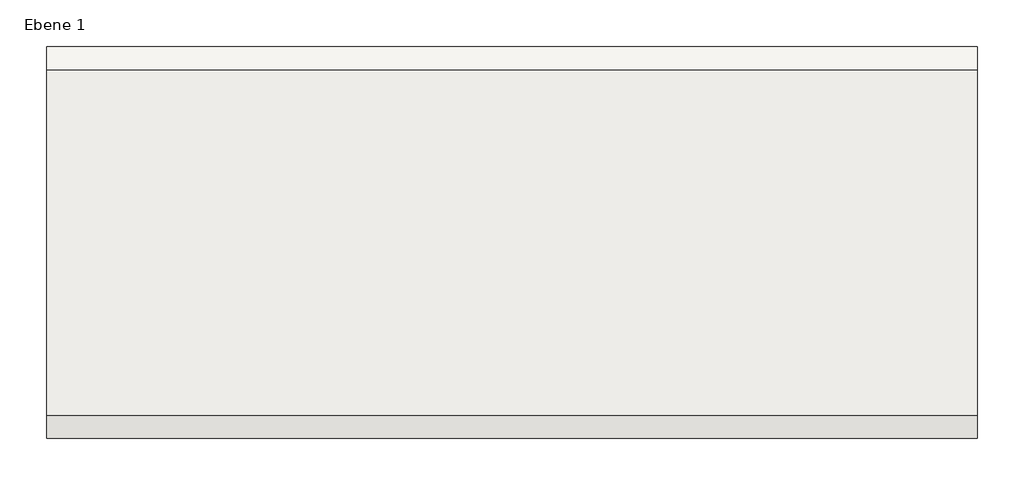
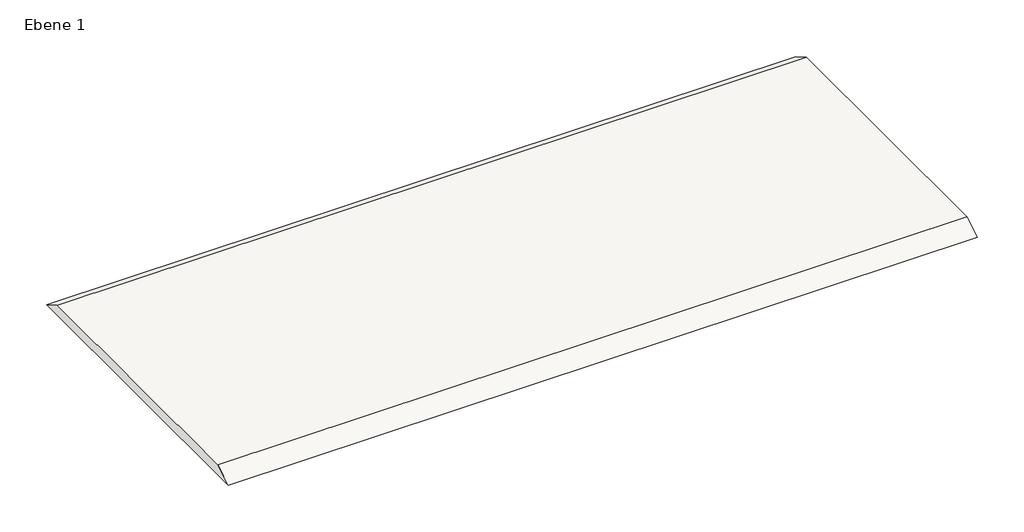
# One storey: 1 slab.
"""IFC4 building model written with IfcOpenShell, lengths in millimetres."""

from ifc_helpers import new_model, si_unit, origin, place, context, project, spatial, transform, mapped, element, save
from components import geschossdecken_1_geschossdecken_1_8f5f6107

model = new_model("IFC4")

# Units and contexts
model_context = context("Model", 3, world=origin())
ifc_project = project(units=[si_unit("LENGTHUNIT", "METRE", prefix="MILLI")], contexts=[model_context])

# Site, building, storey
site = spatial("IfcSite", under=ifc_project)
building = spatial("IfcBuilding", under=site)
storey = spatial("IfcBuildingStorey", under=building, Name="Ebene 1", Elevation=1000.0)

# Slab
placement = place(None, origin())
geschossdecken_1_geschossdecken_1_shape = geschossdecken_1_geschossdecken_1_8f5f6107(model_context)
element("IfcSlab", 1, ObjectType="Geschossdecken 1 : Geschossdecken 1", at=placement, inside=storey, context=model_context, shape_type="MappedRepresentation", body=[
    mapped(geschossdecken_1_geschossdecken_1_shape, transform((0.0, 0.0, 0.0), x_axis=(1.0, 0.0, 0.0), y_axis=(0.0, 1.0, 0.0), z_axis=(0.0, 0.0, 1.0))),
])

save(model, "model.ifc")
